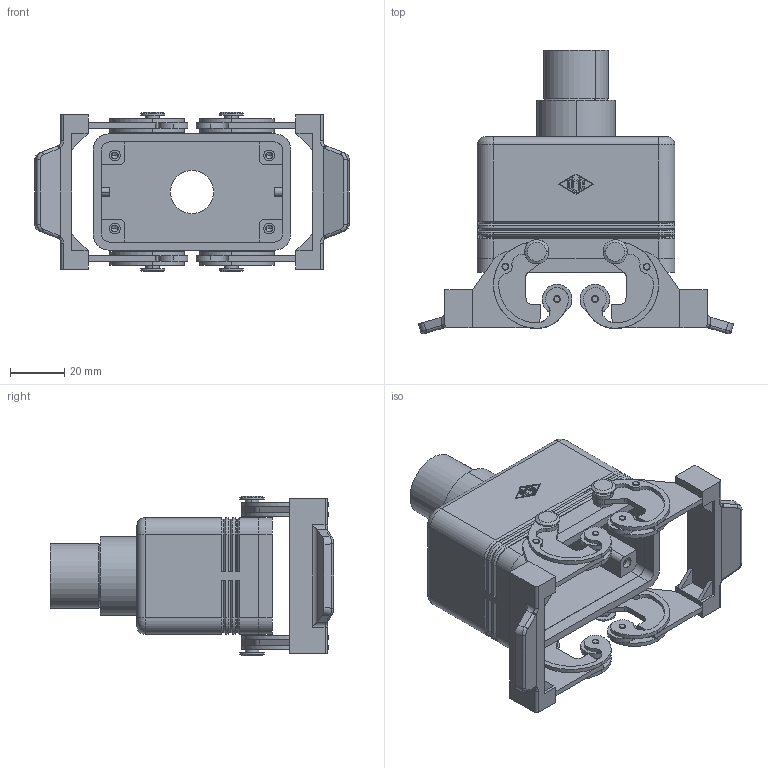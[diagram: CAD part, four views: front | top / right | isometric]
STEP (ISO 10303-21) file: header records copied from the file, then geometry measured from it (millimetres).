
FILE_DESCRIPTION (( 'STEP AP214' ), '1' );
FILE_NAME ('CHVT-10.4G.STEP', '2015-04-15T18:19:47', ( 'Mencom User' ), ( 'Hewlett-Packard Company' ), 'SwSTEP 2.0', 'SolidWorks 2014', '' );
FILE_SCHEMA (( 'AUTOMOTIVE_DESIGN' ));
Length unit declared in the file: inch
Products named in the file (1): CHVT-10.4G
Bounding box: 116.32 x 104.69 x 59 mm (x, y, z)
Volume: 77744.7 mm3; surface area: 50227.9 mm2
Topology: 3 solids, 7 shells, 772 faces, 2002 edges, 1274 vertices
Faces by surface type: plane 354, cylinder 311, cone 44, bspline 35, torus 28
Entity records: 38141 total; most frequent: CARTESIAN_POINT 9395, ORIENTED_EDGE 3984, DIRECTION 3851, EDGE_CURVE 1992, AXIS2_PLACEMENT_3D 1408, VERTEX_POINT 1273, LINE 1035, VECTOR 1035
